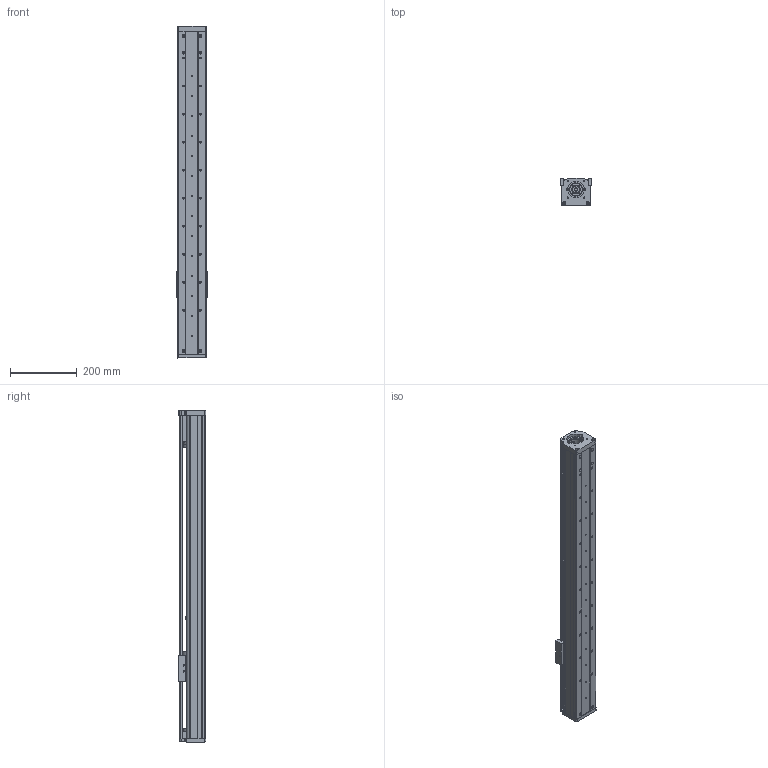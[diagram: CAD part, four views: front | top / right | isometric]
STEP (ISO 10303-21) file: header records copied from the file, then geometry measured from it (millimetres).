
FILE_DESCRIPTION (( 'STEP AP214' ), '1' );
FILE_NAME ('CF86-P750.STEP', '2016-02-22T05:56:25', ( 'Sky123.Org' ), ( 'Sky123.Org' ), 'SwSTEP 2.0', 'SolidWorks 2015', '' );
FILE_SCHEMA (( 'AUTOMOTIVE_DESIGN' ));
Length unit declared in the file: millimetre
Products named in the file (18): 癹弇羲壽; CF86賑輸; deep groove ball bearings gb_Rolling bearings 6001 GB 276-94; 坶踡蹟譫M12-1; 95粣創裔啣; angular contact ball bearings gb_Rolling bearings S7001 GB 292-94; 02 86盓傅釱; 01 86嘐隅釱; 滅袉蝶菜; SFU1610ĸ; SFU1610-P420幗紩佪裝; EGW15CA賑輸; EGR15-P420絳寢; 86-P420臏倰第; 86-P420裔啣; 86耜啣; CF86-P750; 86-60侜督萇儂釱
Assembly tree (19 placements, depth 2):
  CF86-P750
    86耜啣
    86-P420裔啣
    86-P420臏倰第
    EGR15-P420絳寢
    EGW15CA賑輸
    SFU1610-P420幗紩佪裝
    SFU1610ĸ
    滅袉蝶菜  x2
    01 86嘐隅釱
    02 86盓傅釱
    angular contact ball bearings gb_Rolling bearings S7001 GB 292-94  x2
    95粣創裔啣
    坶踡蹟譫M12-1
    deep groove ball bearings gb_Rolling bearings 6001 GB 276-94
    CF86賑輸
    癹弇羲壽
    86-60侜督萇儂釱
Bounding box: 94 x 82.35 x 995 mm (x, y, z)
Volume: 2449530.9 mm3; surface area: 873614.2 mm2
Topology: 19 solids, 19 shells, 1320 faces, 4164 edges, 2783 vertices
Faces by surface type: cylinder 700, plane 369, torus 159, sphere 84, bspline 4, cone 4
Entity records: 73448 total; most frequent: CARTESIAN_POINT 38024, ORIENTED_EDGE 6972, DIRECTION 6342, EDGE_CURVE 3486, AXIS2_PLACEMENT_3D 2498, VERTEX_POINT 2326, EDGE_LOOP 1488, VECTOR 1346
